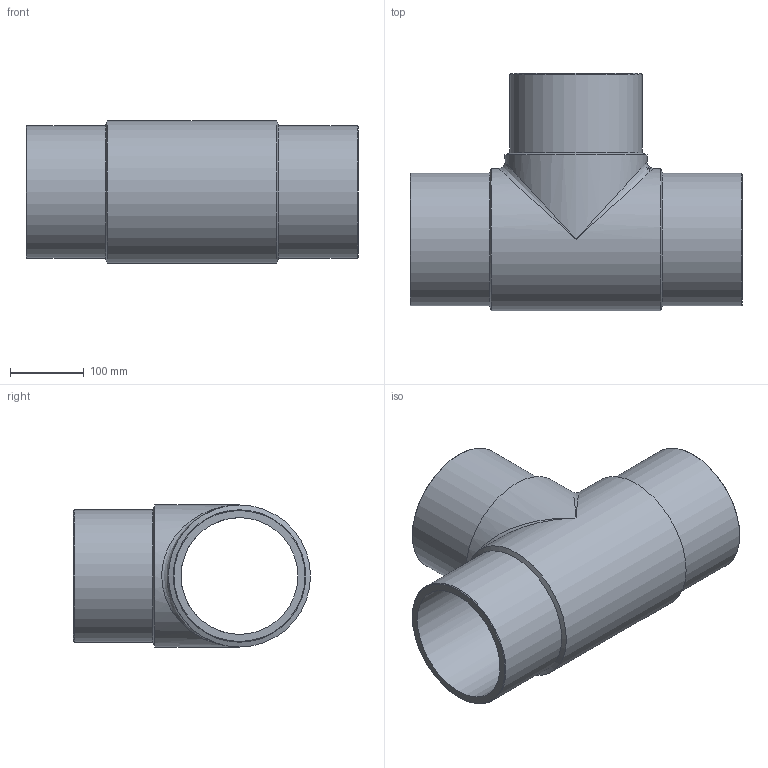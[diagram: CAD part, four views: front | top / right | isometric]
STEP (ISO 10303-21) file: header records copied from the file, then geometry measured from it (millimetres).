
FILE_DESCRIPTION(/* description */ ('Unknown'),/* implementation_level */ '2;1');
FILE_NAME(/* name */ 'TP180B',/* time_stamp */ '2021-08-04T16:46:40+02:00',/* author */ ('Unknown'),/* organization */ ('Unknown'),/* preprocessor_version */ 'ST-DEVELOPER v16.7',/* originating_system */ 'Solid Edge',/* authorisation */ 'Unknown');
FILE_SCHEMA (('AUTOMOTIVE_DESIGN {1 0 10303 214 3 1 1}'));
Length unit declared in the file: millimetre
Products named in the file (1): TP180B
Bounding box: 451 x 322 x 193 mm (x, y, z)
Volume: 4114824.7 mm3; surface area: 632093.8 mm2
Topology: 1 solids, 1 shells, 18 faces, 44 edges, 23 vertices
Faces by surface type: cylinder 7, cone 6, plane 3, bspline 2
Full cylindrical faces by diameter (mm): 158.6 x2, 180 x3, 193 x2
Entity records: 528 total; most frequent: CARTESIAN_POINT 171, DIRECTION 76, ORIENTED_EDGE 42, AXIS2_PLACEMENT_3D 38, EDGE_LOOP 36, FACE_BOUND 36, EDGE_CURVE 21, VERTEX_POINT 19
